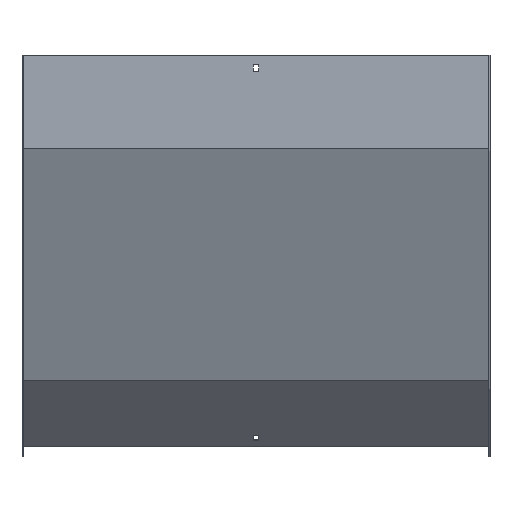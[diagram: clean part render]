
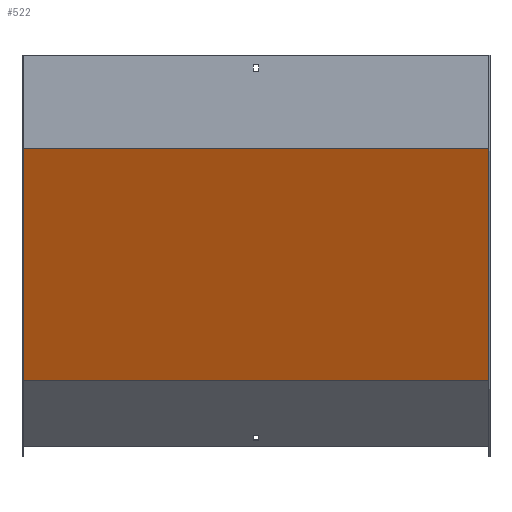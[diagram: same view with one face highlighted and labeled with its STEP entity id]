
A CAD part, front view. The second image highlights one B-rep face of the part: STEP entity #522.
In plain terms, the highlighted planar face has unit normal (0, -0.924, -0.383).
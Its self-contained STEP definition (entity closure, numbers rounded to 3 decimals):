
#1 = EDGE_CURVE ( 'NONE', #838, #716, #828, .T. ) ;
#5 = CARTESIAN_POINT ( 'NONE',  ( 300., 122.335, -419.263 ) ) ;
#23 = VECTOR ( 'NONE', #581, 1000. ) ;
#74 = AXIS2_PLACEMENT_3D ( 'NONE', #240, #780, #172 ) ;
#102 = LINE ( 'NONE', #365, #590 ) ;
#133 = VERTEX_POINT ( 'NONE', #5 ) ;
#172 = DIRECTION ( 'NONE',  ( 0., -0.383, 0.924 ) ) ;
#240 = CARTESIAN_POINT ( 'NONE',  ( 301.5, -1.386, -120.574 ) ) ;
#243 = EDGE_LOOP ( 'NONE', ( #453, #804, #355, #624 ) ) ;
#250 = EDGE_CURVE ( 'NONE', #133, #700, #628, .T. ) ;
#349 = LINE ( 'NONE', #556, #737 ) ;
#355 = ORIENTED_EDGE ( 'NONE', *, *, #509, .F. ) ;
#365 = CARTESIAN_POINT ( 'NONE',  ( 300., -43.812, -18.148 ) ) ;
#372 = DIRECTION ( 'NONE',  ( 0., 0.383, -0.924 ) ) ;
#399 = EDGE_CURVE ( 'NONE', #716, #700, #349, .T. ) ;
#429 = CARTESIAN_POINT ( 'NONE',  ( 300., -1.5, -120.298 ) ) ;
#442 = CARTESIAN_POINT ( 'NONE',  ( 301.5, 122.335, -419.263 ) ) ;
#453 = ORIENTED_EDGE ( 'NONE', *, *, #399, .T. ) ;
#506 = DIRECTION ( 'NONE',  ( -1., 0., 0. ) ) ;
#509 = EDGE_CURVE ( 'NONE', #838, #133, #102, .T. ) ;
#522 = ADVANCED_FACE ( 'NONE', ( #850 ), #652, .F. ) ;
#556 = CARTESIAN_POINT ( 'NONE',  ( -300., -43.812, -18.148 ) ) ;
#576 = VECTOR ( 'NONE', #506, 1000. ) ;
#581 = DIRECTION ( 'NONE',  ( -1., 0., 0. ) ) ;
#590 = VECTOR ( 'NONE', #372, 1000. ) ;
#603 = CARTESIAN_POINT ( 'NONE',  ( -300., 122.335, -419.263 ) ) ;
#606 = DIRECTION ( 'NONE',  ( 0., 0.383, -0.924 ) ) ;
#624 = ORIENTED_EDGE ( 'NONE', *, *, #1, .T. ) ;
#628 = LINE ( 'NONE', #442, #23 ) ;
#652 = PLANE ( 'NONE',  #74 ) ;
#700 = VERTEX_POINT ( 'NONE', #603 ) ;
#716 = VERTEX_POINT ( 'NONE', #805 ) ;
#737 = VECTOR ( 'NONE', #606, 1000. ) ;
#780 = DIRECTION ( 'NONE',  ( 0., 0.924, 0.383 ) ) ;
#804 = ORIENTED_EDGE ( 'NONE', *, *, #250, .F. ) ;
#805 = CARTESIAN_POINT ( 'NONE',  ( -300., -1.5, -120.298 ) ) ;
#828 = LINE ( 'NONE', #833, #576 ) ;
#833 = CARTESIAN_POINT ( 'NONE',  ( 301.5, -1.5, -120.298 ) ) ;
#838 = VERTEX_POINT ( 'NONE', #429 ) ;
#850 = FACE_OUTER_BOUND ( 'NONE', #243, .T. ) ;
